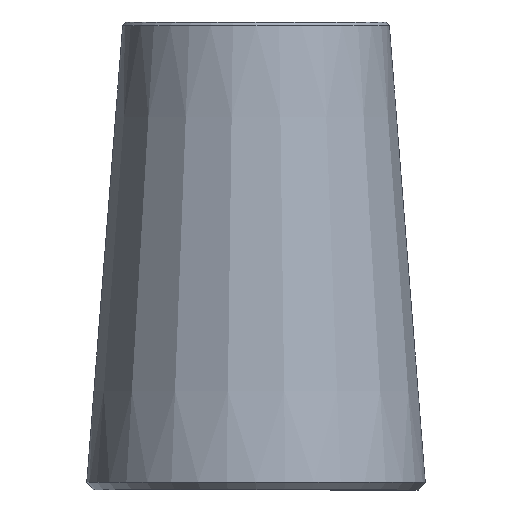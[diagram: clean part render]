
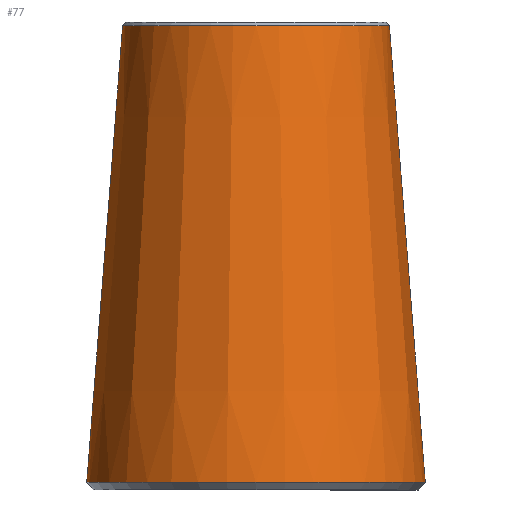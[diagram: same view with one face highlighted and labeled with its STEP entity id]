
A CAD part, left-side view. The second image highlights one B-rep face of the part: STEP entity #77.
In plain terms, the highlighted conical face has half-angle 4.5 degrees and reference radius 20.06 mm.
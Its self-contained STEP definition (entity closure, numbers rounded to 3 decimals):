
#20=FACE_BOUND('',#34,.T.);
#25=FACE_OUTER_BOUND('',#33,.T.);
#33=EDGE_LOOP('',(#63));
#34=EDGE_LOOP('',(#64));
#44=CIRCLE('',#87,22.422);
#45=CIRCLE('',#89,17.66);
#50=VERTEX_POINT('',#130);
#51=VERTEX_POINT('',#133);
#56=EDGE_CURVE('',#50,#50,#44,.T.);
#57=EDGE_CURVE('',#51,#51,#45,.T.);
#63=ORIENTED_EDGE('',*,*,#57,.F.);
#64=ORIENTED_EDGE('',*,*,#56,.F.);
#74=CONICAL_SURFACE('',#88,20.06,4.5);
#77=ADVANCED_FACE('',(#25,#20),#74,.T.);
#87=AXIS2_PLACEMENT_3D('',#131,#104,#105);
#88=AXIS2_PLACEMENT_3D('',#132,#106,#107);
#89=AXIS2_PLACEMENT_3D('',#134,#108,#109);
#104=DIRECTION('center_axis',(0.,0.,
-1.));
#105=DIRECTION('ref_axis',(0.,1.,0.));
#106=DIRECTION('center_axis',(0.,0.,-1.));
#107=DIRECTION('ref_axis',(0.,-1.,0.));
#108=DIRECTION('center_axis',(0.,0.,1.));
#109=DIRECTION('ref_axis',(0.,1.,0.));
#130=CARTESIAN_POINT('',(0.,-22.422,0.997));
#131=CARTESIAN_POINT('Origin',(0.,0.,
0.997));
#132=CARTESIAN_POINT('Origin',(0.,0.,31.));
#133=CARTESIAN_POINT('',(0.,-17.66,61.502));
#134=CARTESIAN_POINT('Origin',(0.,0.,
61.502));
